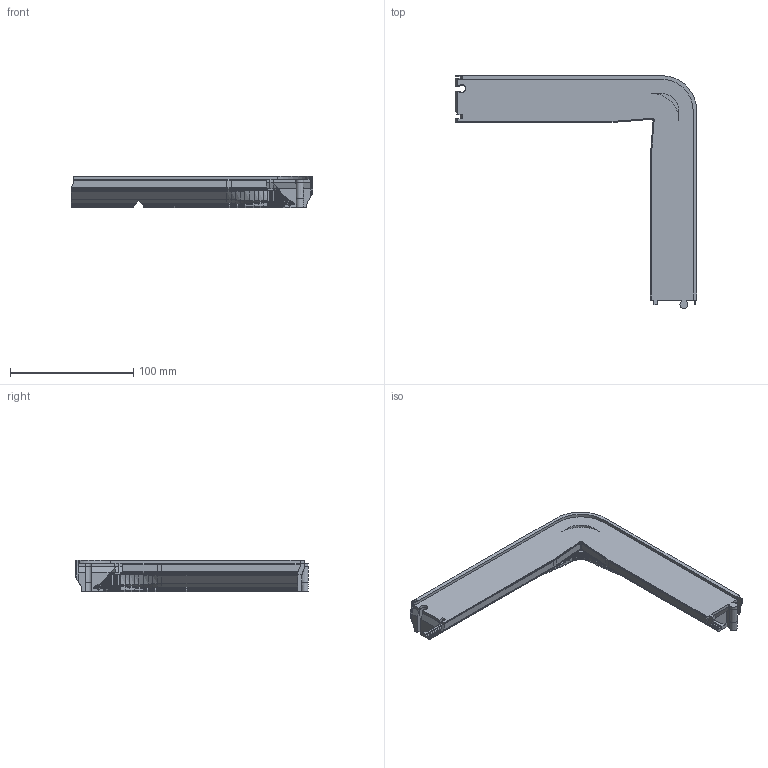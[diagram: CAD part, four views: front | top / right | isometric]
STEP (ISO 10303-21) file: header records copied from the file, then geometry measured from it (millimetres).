
FILE_DESCRIPTION(('Open CASCADE Model'),'2;1');
FILE_NAME('Open CASCADE Shape Model','2026-10-24T07:18:52',('Author'),( 'Open CASCADE'),'Open CASCADE STEP processor 8.0','build123d', 'Unknown');
FILE_SCHEMA(('AUTOMOTIVE_DESIGN { 1 0 10303 214 1 1 1 1 }'));
Products named in the file (1): SOLID
Bounding box: 196.4 x 189.18 x 26 mm (x, y, z)
Volume: 204739.7 mm3; surface area: 51770.9 mm2
Topology: 1 solids, 1 shells, 2460 faces, 5354 edges, 2897 vertices
Faces by surface type: bspline 1916, plane 531, cone 8, cylinder 5
Entity records: 128720 total; most frequent: CARTESIAN_POINT 33637, DIRECTION 12002, LINE 10871, VECTOR 10871, ORIENTED_EDGE 10708, PCURVE 10708, DEFINITIONAL_REPRESENTATION 10708, EDGE_CURVE 5354
